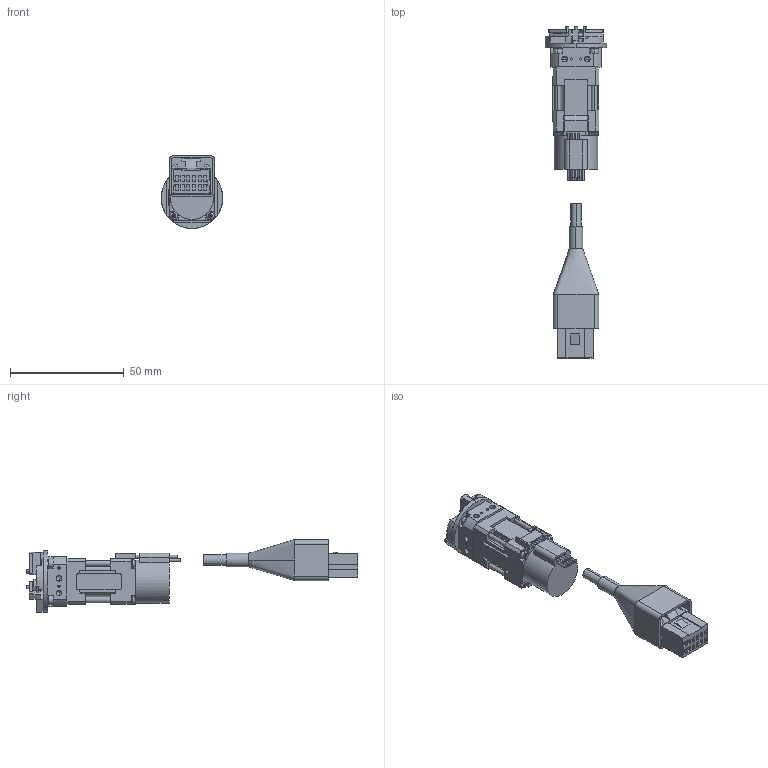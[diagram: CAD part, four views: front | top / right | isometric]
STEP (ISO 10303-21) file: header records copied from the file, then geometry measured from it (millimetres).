
FILE_DESCRIPTION (( 'STEP AP214' ), '1' );
FILE_NAME ('ESG1-ST-2004.STEP', '2009-02-12T03:45:56', ( '風音庵' ), ( '' ), 'SwSTEP 2.0', 'SolidWorks 2007', '' );
FILE_SCHEMA (( 'AUTOMOTIVE_DESIGN' ));
Length unit declared in the file: millimetre
Products named in the file (6): ESG1-ST-2004 FINGER_蹬怮椔; ESG1-ST-2004 BODY_蹬怮椔; CNNECTOR丂BB丂ASSY_棉太倌; CONNECTOR COVER　BB_ﾃﾞﾌｫﾙﾄ; ESG1-ST-2004; CONNECTOR　DK-2100D-12R_ﾃﾞﾌｫﾙﾄ
Assembly tree (7 placements, depth 3):
  ESG1-ST-2004
    ESG1-ST-2004 FINGER_蹬怮椔  x3
    CNNECTOR丂BB丂ASSY_棉太倌
      CONNECTOR COVER　BB_ﾃﾞﾌｫﾙﾄ
      CONNECTOR　DK-2100D-12R_ﾃﾞﾌｫﾙﾄ
    ESG1-ST-2004 BODY_蹬怮椔
Bounding box: 27 x 145.79 x 32 mm (x, y, z)
Volume: 29432.3 mm3; surface area: 15550.9 mm2
Topology: 6 solids, 6 shells, 690 faces, 1788 edges, 1156 vertices
Faces by surface type: plane 482, cylinder 176, cone 22, torus 8, bspline 2
Entity records: 23102 total; most frequent: CARTESIAN_POINT 4097, ORIENTED_EDGE 3216, DIRECTION 3156, EDGE_CURVE 1608, VECTOR 1146, LINE 1146, VERTEX_POINT 1048, AXIS2_PLACEMENT_3D 1005
